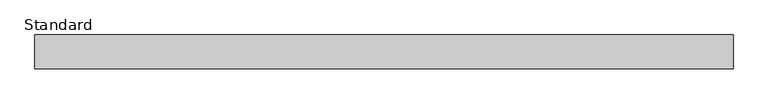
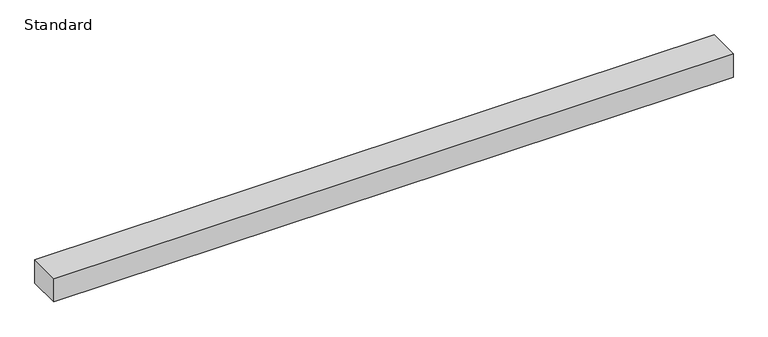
"""IFC4 building model written with IfcOpenShell, lengths in millimetres: proxy geometry, Raceway-ALA3800_Series-Wiremold-Steel : Standard."""

from ifc_helpers import new_model, si_unit, origin, origin_with_axes, place, context, project, spatial, polyline, outline, extrude, source, transform, mapped, element, save


def standard_dac63bf7(model_context):
    return source(origin(), model_context, "Body", "SweptSolid", [
        extrude(outline(polyline([(1574.8, 38.1), (1574.8, -38.1), (0.0, -38.1), (0.0, 38.1), (1574.8, 38.1)])), origin_with_axes(), (0.0, 0.0, 1.0), 57.15),
    ])


if __name__ == "__main__":
    model = new_model("IFC4")
    model_context = context("Model", 3, world=origin())
    ifc_project = project(units=[si_unit("LENGTHUNIT", "METRE", prefix="MILLI")], contexts=[model_context])
    site = spatial("IfcSite", under=ifc_project)
    building = spatial("IfcBuilding", under=site)
    placement = place(None, origin())
    standard_shape = standard_dac63bf7(model_context)
    element("IfcBuildingElementProxy", 1, Name="Raceway-ALA3800_Series-Wiremold-Steel : Standard", ObjectType="Raceway-ALA3800_Series-Wiremold-Steel : Standard", at=placement, inside=building, context=model_context, shape_type="MappedRepresentation", body=[
        mapped(standard_shape, transform((0.0, 0.0, 0.0), x_axis=(1.0, 0.0, 0.0), y_axis=(0.0, 1.0, 0.0), z_axis=(0.0, 0.0, 1.0))),
    ])
    save(model, "model.ifc")
